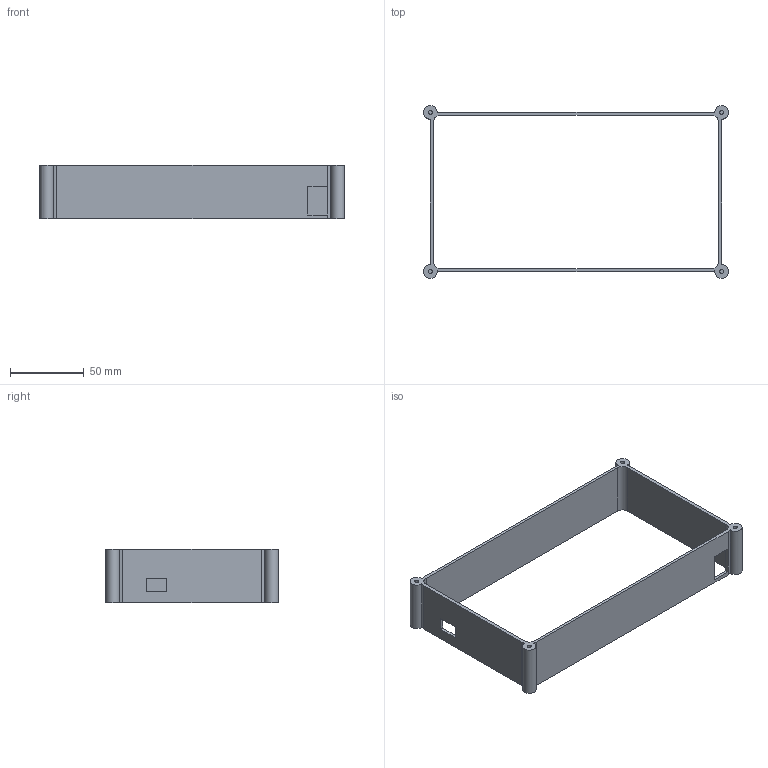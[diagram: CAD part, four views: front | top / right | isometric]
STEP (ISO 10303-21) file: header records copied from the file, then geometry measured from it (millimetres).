
FILE_DESCRIPTION(('Open CASCADE Model'),'2;1');
FILE_NAME('Open CASCADE Shape Model','2026-11-19T06:41:31',('Author'),( 'Open CASCADE'),'Open CASCADE STEP processor 8.0','Open CASCADE 8.0' ,'Unknown');
FILE_SCHEMA(('AUTOMOTIVE_DESIGN { 1 0 10303 214 1 1 1 1 }'));
Length unit declared in the file: millimetre
Products named in the file (1): Open CASCADE STEP translator 8.0 33
Bounding box: 206.67 x 117.07 x 36 mm (x, y, z)
Volume: 49990.4 mm3; surface area: 48025.1 mm2
Topology: 1 solids, 1 shells, 50 faces, 122 edges, 80 vertices
Faces by surface type: plane 26, cylinder 24
Full cylindrical faces by diameter (mm): 2.75 x8
Entity records: 3082 total; most frequent: CARTESIAN_POINT 613, DIRECTION 460, ORIENTED_EDGE 244, PCURVE 244, DEFINITIONAL_REPRESENTATION 244, LINE 226, VECTOR 226, EDGE_CURVE 122
